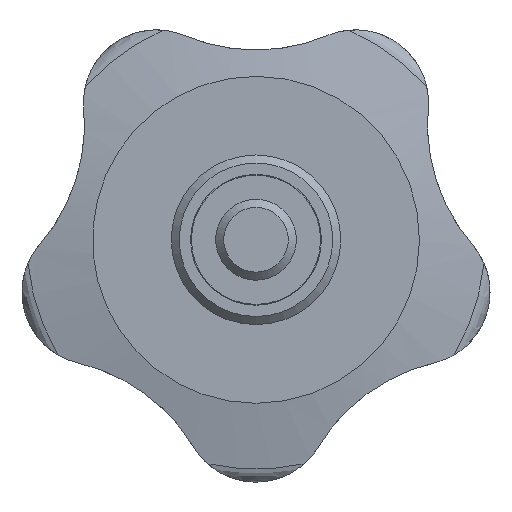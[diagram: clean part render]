
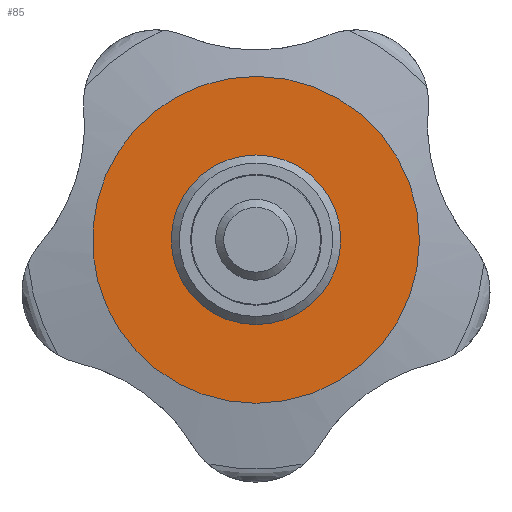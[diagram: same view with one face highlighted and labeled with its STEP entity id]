
A CAD part, front view. The second image highlights one B-rep face of the part: STEP entity #85.
In plain terms, the highlighted planar face has unit normal (0, -1, 0).
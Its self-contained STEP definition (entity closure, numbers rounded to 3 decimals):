
#85 = ADVANCED_FACE( '', ( #131, #132 ), #133, .F. );
#131 = FACE_BOUND( '', #212, .T. );
#132 = FACE_OUTER_BOUND( '', #213, .T. );
#133 = PLANE( '', #214 );
#212 = EDGE_LOOP( '', ( #413 ) );
#213 = EDGE_LOOP( '', ( #414 ) );
#214 = AXIS2_PLACEMENT_3D( '', #415, #416, #417 );
#413 = ORIENTED_EDGE( '', *, *, #617, .F. );
#414 = ORIENTED_EDGE( '', *, *, #606, .T. );
#415 = CARTESIAN_POINT( '', ( 20.24, 21., 0. ) );
#416 = DIRECTION( '', ( 0., 1., 0. ) );
#417 = DIRECTION( '', ( 0., 0., 1. ) );
#606 = EDGE_CURVE( '', #729, #729, #730, .T. );
#617 = EDGE_CURVE( '', #741, #741, #742, .T. );
#729 = VERTEX_POINT( '', #1266 );
#730 = CIRCLE( '', #1267, 20.24 );
#741 = VERTEX_POINT( '', #1353 );
#742 = CIRCLE( '', #1354, 10.5 );
#1266 = CARTESIAN_POINT( '', ( 0., 21., -20.24 ) );
#1267 = AXIS2_PLACEMENT_3D( '', #1462, #1463, #1464 );
#1353 = CARTESIAN_POINT( '', ( 0., 21., -10.5 ) );
#1354 = AXIS2_PLACEMENT_3D( '', #1480, #1481, #1482 );
#1462 = CARTESIAN_POINT( '', ( 0., 21., 0. ) );
#1463 = DIRECTION( '', ( 0., -1., 0. ) );
#1464 = DIRECTION( '', ( 0., 0., -1. ) );
#1480 = CARTESIAN_POINT( '', ( 0., 21., 0. ) );
#1481 = DIRECTION( '', ( 0., -1., 0. ) );
#1482 = DIRECTION( '', ( 0., 0., -1. ) );
